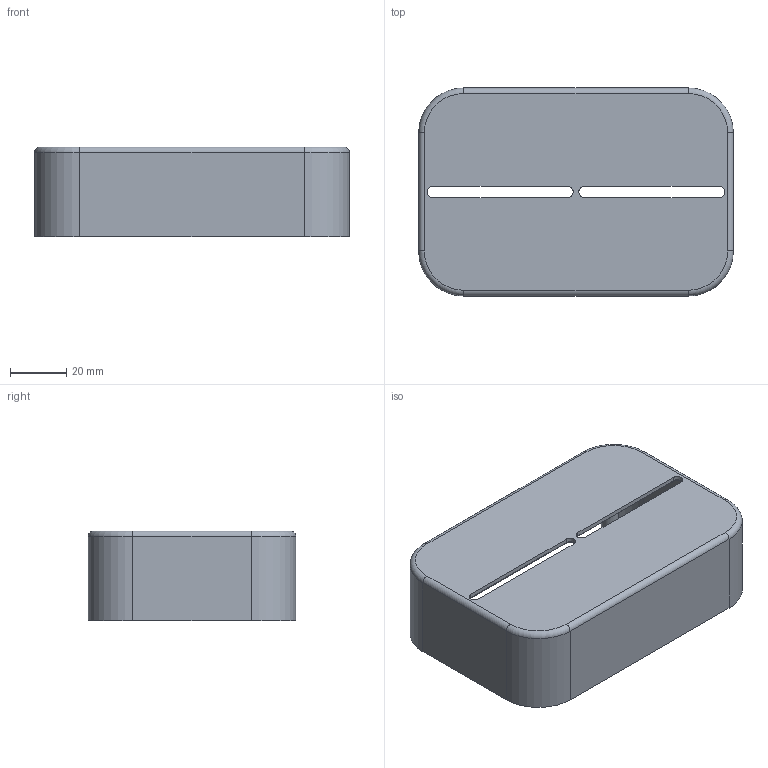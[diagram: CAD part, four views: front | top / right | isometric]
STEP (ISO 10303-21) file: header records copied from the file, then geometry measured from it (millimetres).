
FILE_DESCRIPTION(/* description */ (''),/* implementation_level */ '2;1');
FILE_NAME(/* name */ 'Acuator Host-Join-4.step',/* time_stamp */ '2026-09-18T19:38:49+10:00',/* author */ (''),/* organization */ (''),/* preprocessor_version */ 'ST-DEVELOPER v20.2',/* originating_system */ 'Autodesk Translation Framework v15.15.0.0',/* authorisation */ '');
FILE_SCHEMA (('AUTOMOTIVE_DESIGN { 1 0 10303 214 3 1 1 }'));
Length unit declared in the file: millimetre
Products named in the file (1): Acuator Host-Join
Bounding box: 112 x 74 x 32 mm (x, y, z)
Volume: 31045.1 mm3; surface area: 39231 mm2
Topology: 1 solids, 1 shells, 103 faces, 238 edges, 144 vertices
Faces by surface type: cylinder 50, plane 31, torus 20, bspline 2
Full cylindrical faces by diameter (mm): 2.8 x4, 3.2 x4
Entity records: 3110 total; most frequent: CARTESIAN_POINT 682, DIRECTION 544, ORIENTED_EDGE 476, EDGE_CURVE 238, AXIS2_PLACEMENT_3D 216, VERTEX_POINT 144, EDGE_LOOP 114, CIRCLE 114
